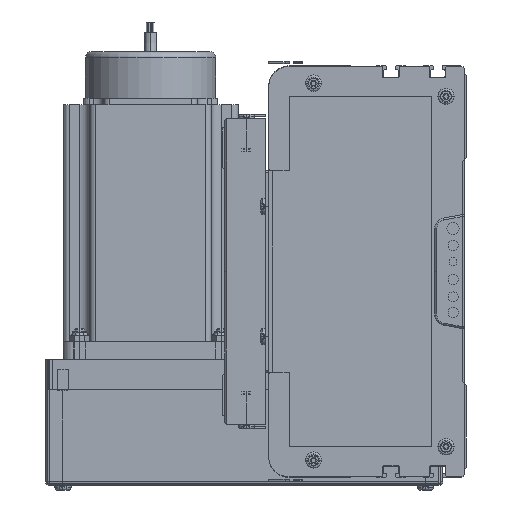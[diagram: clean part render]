
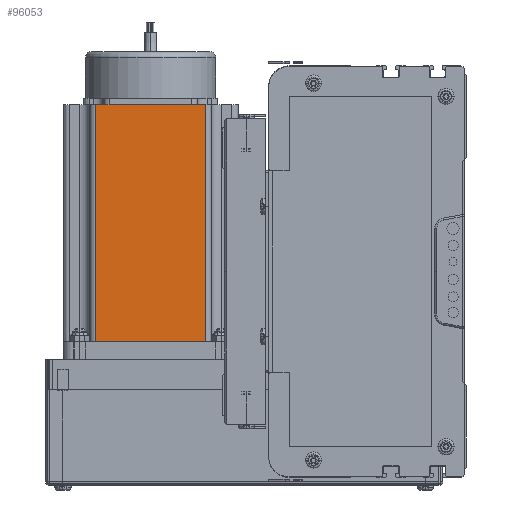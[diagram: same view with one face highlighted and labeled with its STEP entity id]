
A CAD part, left-side view. The second image highlights one B-rep face of the part: STEP entity #96053.
In plain terms, the highlighted planar face has unit normal (-1, 0, 0) as drawn and (0, -1, 0) by its records, which use the part's own axes.
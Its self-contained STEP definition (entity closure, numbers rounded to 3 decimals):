
#94969 = EDGE_CURVE ( 'NONE', #94972, #95930, #114793, .T. ) ;
#94972 = VERTEX_POINT ( 'NONE', #114773 ) ;
#94973 = VERTEX_POINT ( 'NONE', #114791 ) ;
#95003 = EDGE_LOOP ( 'NONE', ( #95390, #96245, #96025, #96051 ) ) ;
#95390 = ORIENTED_EDGE ( 'NONE', *, *, #95770, .T. ) ;
#95767 = EDGE_CURVE ( 'NONE', #95844, #94973, #122643, .T. ) ;
#95770 = EDGE_CURVE ( 'NONE', #95930, #95844, #122784, .T. ) ;
#95844 = VERTEX_POINT ( 'NONE', #123264 ) ;
#95930 = VERTEX_POINT ( 'NONE', #123728 ) ;
#96025 = ORIENTED_EDGE ( 'NONE', *, *, #96249, .F. ) ;
#96051 = ORIENTED_EDGE ( 'NONE', *, *, #94969, .T. ) ;
#96053 = ADVANCED_FACE ( 'NONE', ( #126909 ), #127022, .F. ) ;
#96245 = ORIENTED_EDGE ( 'NONE', *, *, #95767, .T. ) ;
#96249 = EDGE_CURVE ( 'NONE', #94972, #94973, #128717, .T. ) ;
#114773 = CARTESIAN_POINT ( 'NONE',  ( 16.16, 0., 116.5 ) ) ;
#114775 = DIRECTION ( 'NONE',  ( 0., 0., -1. ) ) ;
#114776 = VECTOR ( 'NONE', #114775, 1000. ) ;
#114791 = CARTESIAN_POINT ( 'NONE',  ( 69.74, 0., 116.5 ) ) ;
#114792 = CARTESIAN_POINT ( 'NONE',  ( 16.16, 0., 116.5 ) ) ;
#114793 = LINE ( 'NONE', #114792, #114776 ) ;
#122631 = DIRECTION ( 'NONE',  ( 1., 0., 0. ) ) ;
#122633 = VECTOR ( 'NONE', #122631, 1000. ) ;
#122643 = LINE ( 'NONE', #122780, #122779 ) ;
#122777 = CARTESIAN_POINT ( 'NONE',  ( 0., 0., 0. ) ) ;
#122778 = DIRECTION ( 'NONE',  ( 0., 0., 1. ) ) ;
#122779 = VECTOR ( 'NONE', #122778, 1000. ) ;
#122780 = CARTESIAN_POINT ( 'NONE',  ( 69.74, 0., 116.5 ) ) ;
#122784 = LINE ( 'NONE', #122777, #122633 ) ;
#123264 = CARTESIAN_POINT ( 'NONE',  ( 69.74, 0., 0. ) ) ;
#123728 = CARTESIAN_POINT ( 'NONE',  ( 16.16, 0., 0. ) ) ;
#126870 = DIRECTION ( 'NONE',  ( 0., 0., 1. ) ) ;
#126904 = DIRECTION ( 'NONE',  ( 0., 1., 0. ) ) ;
#126909 = FACE_OUTER_BOUND ( 'NONE', #95003, .T. ) ;
#126935 = CARTESIAN_POINT ( 'NONE',  ( 0., 0., 116.5 ) ) ;
#127020 = AXIS2_PLACEMENT_3D ( 'NONE', #126935, #126904, #126870 ) ;
#127022 = PLANE ( 'NONE',  #127020 ) ;
#128709 = DIRECTION ( 'NONE',  ( 1., 0., 0. ) ) ;
#128710 = VECTOR ( 'NONE', #128709, 1000. ) ;
#128716 = CARTESIAN_POINT ( 'NONE',  ( 0., 0., 116.5 ) ) ;
#128717 = LINE ( 'NONE', #128716, #128710 ) ;
